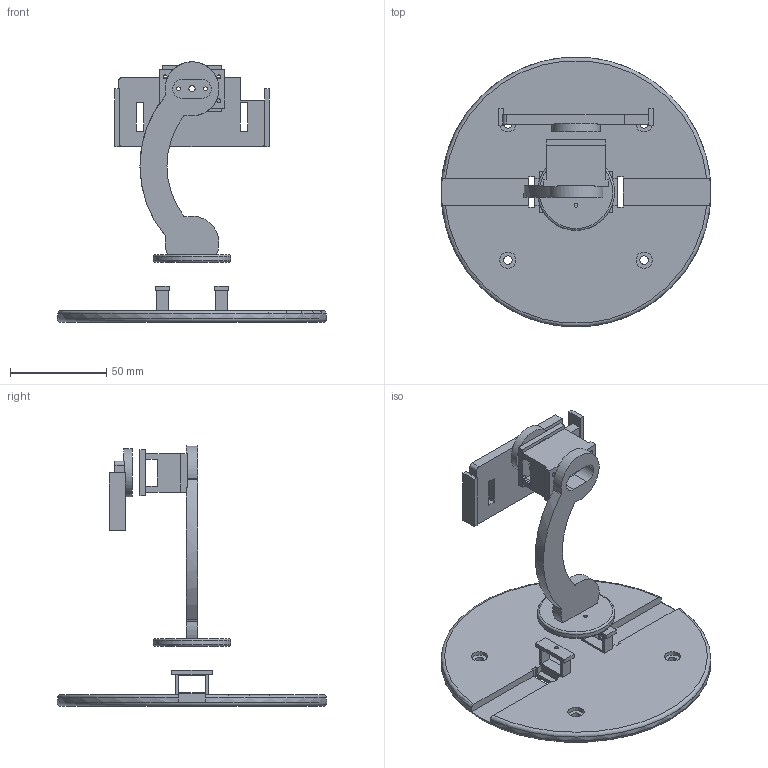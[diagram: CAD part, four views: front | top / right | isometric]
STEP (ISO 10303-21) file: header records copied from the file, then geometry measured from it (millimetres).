
FILE_DESCRIPTION(('Open CASCADE Model'),'2;1');
FILE_NAME('Open CASCADE Shape Model','2026-08-26T11:29:57',('Author'),( 'Open CASCADE'),'Open CASCADE STEP processor 7.9','Open CASCADE 7.9' ,'Unknown');
FILE_SCHEMA(('AUTOMOTIVE_DESIGN { 1 0 10303 214 1 1 1 1 }'));
Length unit declared in the file: millimetre
Products named in the file (5): C270_PanTilt_Printable_Assembly; PanServo_StabilityBase; CurvedArm_SG90_TiltHolder; SG90_RetainingCap; Logitech_C270_ClipCradle
Assembly tree (4 placements, depth 2):
  C270_PanTilt_Printable_Assembly
    PanServo_StabilityBase
    CurvedArm_SG90_TiltHolder
    SG90_RetainingCap
    Logitech_C270_ClipCradle
Bounding box: 140 x 140 x 134.98 mm (x, y, z)
Volume: 124349.7 mm3; surface area: 57244.6 mm2
Topology: 4 solids, 4 shells, 178 faces, 491 edges, 326 vertices
Faces by surface type: plane 127, cylinder 42, torus 5, bspline 4
Full cylindrical faces by diameter (mm): 1.9 x2, 2 x12, 2.3 x4, 3.2 x2, 4.4 x4, 8.4 x4, 21 x1, 25 x1, 40 x1, 140 x1
Entity records: 12568 total; most frequent: CARTESIAN_POINT 3018, DIRECTION 1589, ORIENTED_EDGE 982, PCURVE 982, DEFINITIONAL_REPRESENTATION 982, LINE 916, VECTOR 916, EDGE_CURVE 491
